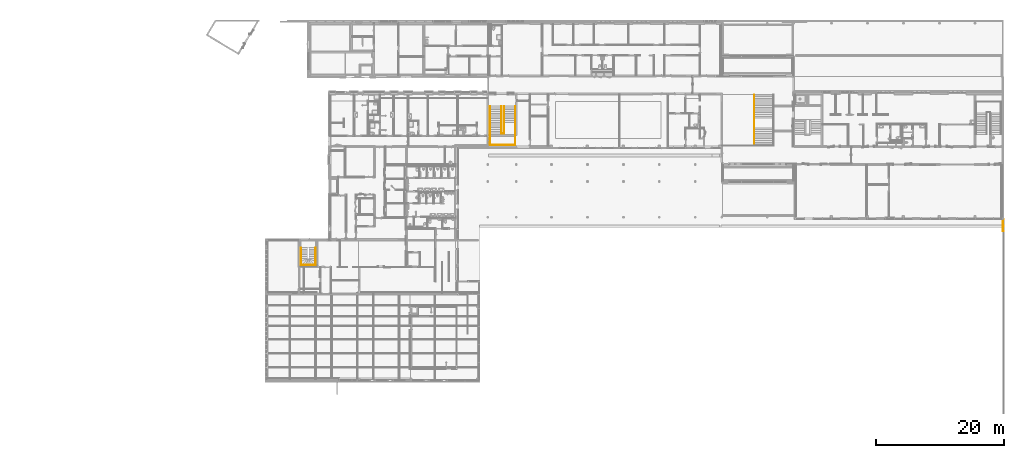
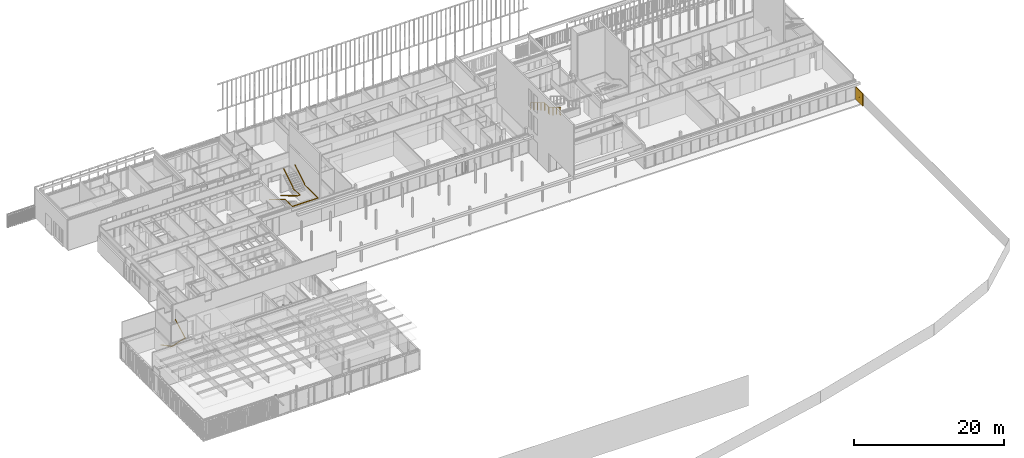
# One storey, part 234 of 240: 4 railings, 1 door, 3 elements without a shape of their own.
"""IFC2X3 building model written with IfcOpenShell, lengths in centimetres."""

from ifc_helpers import new_model, entity, si_unit, converted_unit, derived_unit, direction, frame, origin, place, context, subcontext, project, spatial, faceted_brep, source, transform, mapped, material, material_list, type_object, type_shapes, element, aggregate, save


model = new_model("IFC2X3")

# Units and contexts
model_context = context("Model", 3, precision=0.001, world=origin(), true_north=direction((6.12303176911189e-17, 1.0)))
body_context = subcontext(model_context, "Body", "Model", "MODEL_VIEW")
ifc_project = project(units=[si_unit("LENGTHUNIT", "METRE", prefix="CENTI"), si_unit("AREAUNIT", "SQUARE_METRE"), si_unit("VOLUMEUNIT", "CUBIC_METRE"), converted_unit("PLANEANGLEUNIT", "DEGREE", entity("IfcRatioMeasure", 0.0174532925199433), si_unit("PLANEANGLEUNIT", "RADIAN"), dimensions=[0, 0, 0, 0, 0, 0, 0]), si_unit("MASSUNIT", "GRAM", prefix="KILO"), derived_unit("MASSDENSITYUNIT", [(si_unit("MASSUNIT", "GRAM", prefix="KILO"), 1), (si_unit("LENGTHUNIT", "METRE"), -3)]), si_unit("TIMEUNIT", "SECOND"), si_unit("FREQUENCYUNIT", "HERTZ"), si_unit("THERMODYNAMICTEMPERATUREUNIT", "DEGREE_CELSIUS"), derived_unit("THERMALTRANSMITTANCEUNIT", [(si_unit("MASSUNIT", "GRAM", prefix="KILO"), 1), (si_unit("THERMODYNAMICTEMPERATUREUNIT", "KELVIN"), -1), (si_unit("TIMEUNIT", "SECOND"), -3)]), derived_unit("VOLUMETRICFLOWRATEUNIT", [(si_unit("LENGTHUNIT", "METRE"), 3), (si_unit("TIMEUNIT", "SECOND"), -1)]), si_unit("ELECTRICCURRENTUNIT", "AMPERE"), si_unit("ELECTRICVOLTAGEUNIT", "VOLT"), si_unit("POWERUNIT", "WATT"), si_unit("FORCEUNIT", "NEWTON", prefix="KILO"), si_unit("ILLUMINANCEUNIT", "LUX"), si_unit("LUMINOUSFLUXUNIT", "LUMEN"), si_unit("LUMINOUSINTENSITYUNIT", "CANDELA"), derived_unit("USERDEFINED", [(si_unit("MASSUNIT", "GRAM", prefix="KILO"), -1), (si_unit("LENGTHUNIT", "METRE"), -2), (si_unit("TIMEUNIT", "SECOND"), 3), (si_unit("LUMINOUSFLUXUNIT", "LUMEN"), 1)]), derived_unit("LINEARVELOCITYUNIT", [(si_unit("LENGTHUNIT", "METRE"), 1), (si_unit("TIMEUNIT", "SECOND"), -1)]), si_unit("PRESSUREUNIT", "PASCAL"), derived_unit("USERDEFINED", [(si_unit("LENGTHUNIT", "METRE"), -2), (si_unit("MASSUNIT", "GRAM", prefix="KILO"), 1), (si_unit("TIMEUNIT", "SECOND"), -2)])], contexts=[model_context])

# Site, building, storey
site_placement = place(None, frame((-2781.94577612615, 7442.24238424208, 0.0)))
site = spatial("IfcSite", under=ifc_project, at=site_placement, Name="Default", CompositionType="ELEMENT")
building_placement = place(site_placement, origin())
building = spatial("IfcBuilding", under=site, at=building_placement, CompositionType="ELEMENT")
storey_placement = place(building_placement, origin())
storey = spatial("IfcBuildingStorey", under=building, at=storey_placement, Name="N00 - COO", CompositionType="ELEMENT", Elevation=0.0)

# Door
ifc_material_1 = material(Name="Bois - Panneau de porte")
ifc_material_2 = material(Name="Finition Peinture - Blanc satiné")
ifc_material_3 = material(Name="Bois - Cadre de porte")
ifc_material_list_1 = material_list([ifc_material_1, ifc_material_2, ifc_material_3])
ifc_material_list_2 = material_list([ifc_material_1, ifc_material_2, ifc_material_3])
door_style = type_object("IfcDoorStyle", Name="PP PORTAIL (1.83m x 2.04m)", ConstructionType="NOTDEFINED", OperationType="DOUBLE_DOOR_SINGLE_SWING", ParameterTakesPrecedence=False, Sizeable=False, material=ifc_material_list_2)
shared_shape = source(origin(), body_context, "Body", "Brep", [
    faceted_brep([(95.0, 4.0, 196.5), (95.0, 4.0, 0.0), (3.5000000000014, 4.0, 0.0), (3.5000000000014, 4.0, 196.5), (95.0, 0.0, 196.5), (3.5000000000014, 0.0, 196.5), (3.5000000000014, 0.0, 0.0), (95.0, 0.0, 0.0)], [[[0, 1, 2, 3]], [[4, 5, 6, 7]], [[3, 5, 4, 0]], [[2, 6, 5, 3]], [[1, 7, 6, 2]], [[0, 4, 7, 1]]]),
    faceted_brep([(102.035276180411, -0.500000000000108, 86.6003983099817), (103.0, -0.500000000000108, 87.0), (103.0, -0.500000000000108, 108.0), (102.035276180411, -0.500000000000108, 108.399601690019), (101.0, -0.500000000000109, 108.535898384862), (99.9647238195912, -0.500000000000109, 108.399601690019), (99.0, -0.50000000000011, 108.0), (99.0, -0.50000000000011, 87.0), (99.9647238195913, -0.500000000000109, 86.6003983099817), (101.0, -0.500000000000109, 86.464101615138), (102.035276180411, 0.0, 108.399601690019), (103.0, 0.0, 108.0), (103.0, 0.0, 87.0), (102.035276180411, 0.0, 86.6003983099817), (101.0, 0.0, 86.464101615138), (99.9647238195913, 0.0, 86.6003983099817), (99.0, 0.0, 87.0), (99.0, 0.0, 108.0), (99.9647238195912, 0.0, 108.399601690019), (101.0, 0.0, 108.535898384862)], [[[0, 1, 2, 3, 4, 5, 6, 7, 8, 9]], [[10, 11, 12, 13, 14, 15, 16, 17, 18, 19]], [[16, 15, 8, 7]], [[8, 15, 14, 9]], [[14, 13, 0, 9]], [[13, 12, 1, 0]], [[2, 1, 12, 11]], [[11, 10, 3, 2]], [[3, 10, 19, 4]], [[19, 18, 5, 4]], [[18, 17, 6, 5]], [[7, 6, 17, 16]]]),
    faceted_brep([(102.035276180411, 4.0, 86.6003983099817), (103.0, 4.0, 87.0), (103.0, 4.0, 108.0), (102.035276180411, 4.0, 108.399601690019), (101.0, 4.0, 108.535898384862), (99.9647238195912, 4.0, 108.399601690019), (99.0, 4.0, 108.0), (99.0, 4.0, 87.0), (99.9647238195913, 4.0, 86.6003983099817), (101.0, 4.0, 86.464101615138), (102.035276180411, 4.49999999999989, 108.399601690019), (103.0, 4.49999999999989, 108.0), (103.0, 4.49999999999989, 87.0), (102.035276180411, 4.49999999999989, 86.6003983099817), (101.0, 4.49999999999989, 86.464101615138), (99.9647238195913, 4.49999999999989, 86.6003983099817), (99.0, 4.49999999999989, 87.0), (99.0, 4.49999999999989, 108.0), (99.9647238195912, 4.49999999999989, 108.399601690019), (101.0, 4.49999999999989, 108.535898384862)], [[[0, 1, 2, 3, 4, 5, 6, 7, 8, 9]], [[10, 11, 12, 13, 14, 15, 16, 17, 18, 19]], [[11, 10, 3, 2]], [[3, 10, 19, 4]], [[19, 18, 5, 4]], [[18, 17, 6, 5]], [[7, 6, 17, 16]], [[16, 15, 8, 7]], [[8, 15, 14, 9]], [[14, 13, 0, 9]], [[13, 12, 1, 0]], [[2, 1, 12, 11]]]),
    faceted_brep([(100.797470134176, -0.500000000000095, 100.778044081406), (101.202529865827, -0.500000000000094, 100.778044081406), (101.600000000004, -0.500000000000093, 100.699999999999), (101.600000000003, -0.500000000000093, 99.3000000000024), (101.202529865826, -0.500000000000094, 99.2219559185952), (100.797470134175, -0.500000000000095, 99.221955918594), (100.399999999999, -0.500000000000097, 99.2999999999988), (100.399999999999, -0.500000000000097, 100.7), (100.399999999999, -3.26509507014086, 100.7), (100.797470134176, -3.10045754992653, 100.778044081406), (102.402358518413, -4.70534593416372, 100.778044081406), (102.570139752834, -4.30028620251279, 100.778044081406), (101.202529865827, -2.93267631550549, 100.778044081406), (101.600000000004, -2.76803879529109, 100.7), (101.600000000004, -2.76803879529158, 99.3000000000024), (101.202529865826, -2.93267631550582, 99.2219559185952), (102.570139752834, -4.30028620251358, 99.2219559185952), (102.402358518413, -4.7053459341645, 99.221955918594), (100.797470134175, -3.10045754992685, 99.221955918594), (100.399999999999, -3.26509507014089, 99.2999999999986), (102.237720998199, -5.10281606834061, 100.7), (102.734777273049, -3.90281606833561, 100.7), (102.734777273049, -3.90281606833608, 99.3000000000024), (102.237720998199, -5.10281606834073, 99.2999999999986), (111.001864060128, -5.10281606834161, 99.2999999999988), (111.001864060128, -4.70534593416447, 99.221955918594), (111.001864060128, -4.30028620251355, 99.2219559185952), (111.001864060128, -3.9028160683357, 99.3000000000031), (111.001864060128, -3.90281606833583, 100.7), (111.001864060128, -4.30028620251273, 100.778044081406), (111.001864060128, -4.70534593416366, 100.778044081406), (111.001864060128, -5.10281606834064, 100.699999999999), (106.230769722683, -5.10281606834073, 100.7), (106.78600190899, -4.50281606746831, 100.78786867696), (106.868320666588, -3.9028160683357, 100.7), (106.868320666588, -3.9028160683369, 99.3000000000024), (106.786001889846, -4.50281607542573, 99.2121313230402), (106.23077002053, -5.10281606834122, 99.2999999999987)], [[[0, 1, 2, 3, 4, 5, 6, 7]], [[8, 9, 0, 7]], [[9, 10, 11, 12, 1, 0]], [[12, 13, 2, 1]], [[3, 2, 13, 14]], [[14, 15, 4, 3]], [[15, 16, 17, 18, 5, 4]], [[18, 19, 6, 5]], [[7, 6, 19, 8]], [[20, 10, 9, 8]], [[11, 21, 13, 12]], [[14, 13, 21, 22]], [[22, 16, 15, 14]], [[17, 23, 19, 18]], [[8, 19, 23, 20]], [[24, 25, 26, 27, 28, 29, 30, 31]], [[32, 30, 33]], [[31, 30, 32]], [[10, 20, 32]], [[33, 34, 11]], [[21, 11, 34]], [[34, 29, 28]], [[30, 29, 33]], [[29, 34, 33]], [[10, 32, 33]], [[10, 33, 11]], [[22, 21, 34, 28, 27, 35]], [[35, 26, 36]], [[37, 36, 25]], [[22, 35, 16]], [[35, 27, 26]], [[24, 37, 25]], [[23, 17, 37]], [[37, 17, 36]], [[17, 16, 36]], [[16, 35, 36]], [[25, 36, 26]], [[20, 23, 37, 24, 31, 32]]]),
    faceted_brep([(100.797470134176, 4.4999999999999, 100.778044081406), (100.399999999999, 4.4999999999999, 100.7), (100.399999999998, 4.4999999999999, 99.2999999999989), (100.797470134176, 4.4999999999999, 99.221955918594), (101.202529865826, 4.4999999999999, 99.2219559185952), (101.600000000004, 4.49999999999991, 99.3000000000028), (101.600000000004, 4.49999999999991, 100.7), (101.202529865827, 4.4999999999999, 100.778044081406), (101.600000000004, 6.7485204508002, 99.3000000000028), (101.600000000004, 6.74852045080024, 100.7), (101.202529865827, 6.91315797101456, 100.778044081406), (102.583890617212, 8.29451872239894, 100.778044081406), (102.416109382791, 8.69957845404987, 100.778044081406), (100.797470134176, 7.08093920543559, 100.778044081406), (100.399999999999, 7.24557672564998, 100.7), (100.399999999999, 7.2455767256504, 99.2999999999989), (100.797470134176, 7.08093920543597, 99.221955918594), (102.41610938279, 8.69957845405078, 99.221955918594), (102.583890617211, 8.29451872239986, 99.2219559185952), (101.202529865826, 6.91315797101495, 99.2219559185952), (102.748528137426, 7.89704858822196, 99.3000000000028), (102.748528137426, 7.89704858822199, 100.7), (102.251471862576, 9.09704858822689, 100.7), (102.251471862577, 9.0970485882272, 99.2999999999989), (111.004578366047, 7.89704858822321, 99.3000000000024), (111.004578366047, 8.29451872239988, 99.2219559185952), (111.004578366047, 8.6995784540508, 99.221955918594), (111.004578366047, 9.09704858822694, 99.2999999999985), (111.004578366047, 9.09704858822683, 100.7), (111.004578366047, 8.69957845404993, 100.778044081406), (111.004578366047, 8.294518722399, 100.778044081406), (111.004578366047, 7.89704858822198, 100.7), (106.876552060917, 7.89704858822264, 99.3000000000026), (106.876553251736, 7.89704858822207, 100.7), (106.794234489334, 8.49704858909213, 100.78786867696), (106.244520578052, 9.09704858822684, 100.7), (106.244520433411, 9.09704858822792, 99.2999999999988), (106.794234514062, 8.49704858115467, 99.2121313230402)], [[[0, 1, 2, 3, 4, 5, 6, 7]], [[6, 5, 8, 9]], [[9, 10, 7, 6]], [[10, 11, 12, 13, 0, 7]], [[13, 14, 1, 0]], [[2, 1, 14, 15]], [[15, 16, 3, 2]], [[16, 17, 18, 19, 4, 3]], [[19, 8, 5, 4]], [[9, 8, 20, 21]], [[21, 11, 10, 9]], [[12, 22, 14, 13]], [[15, 14, 22, 23]], [[23, 17, 16, 15]], [[18, 20, 8, 19]], [[24, 25, 26, 27, 28, 29, 30, 31]], [[21, 20, 32, 24, 31, 33]], [[33, 30, 34]], [[35, 34, 29]], [[21, 33, 11]], [[33, 31, 30]], [[28, 35, 29]], [[22, 12, 35]], [[35, 12, 34]], [[12, 11, 34]], [[11, 33, 34]], [[29, 34, 30]], [[22, 35, 28, 27, 36, 23]], [[36, 26, 37]], [[27, 26, 36]], [[17, 23, 36]], [[37, 32, 18]], [[20, 18, 32]], [[32, 25, 24]], [[26, 25, 37]], [[25, 32, 37]], [[17, 36, 37]], [[17, 37, 18]]]),
    faceted_brep([(95.0, 4.0, 196.5), (186.500000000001, 4.0, 196.5), (186.500000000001, 4.0, 0.0), (95.0, 4.0, 0.0), (95.0, 0.0, 196.5), (95.0, 0.0, 0.0), (186.500000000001, 0.0, 0.0), (186.500000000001, 0.0, 196.5)], [[[0, 1, 2, 3]], [[4, 5, 6, 7]], [[1, 0, 4, 7]], [[2, 1, 7, 6]], [[3, 2, 6, 5]], [[0, 3, 5, 4]]]),
    faceted_brep([(0.0, 0.0, 0.0), (0.0, 10.0, 0.0), (5.0, 10.0, 0.0), (5.0, 4.0, 0.0), (3.50000000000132, 4.0, 0.0), (3.50000000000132, 0.0, 0.0), (0.0, 0.0, 200.0), (0.0, 10.0, 200.0), (190.0, 10.0, 200.0), (190.0, 10.0, 0.0), (185.0, 10.0, 0.0), (185.0, 10.0, 195.0), (5.0, 10.0, 195.0), (5.0, 4.0, 195.0), (185.0, 4.0, 195.0), (185.0, 4.0, 0.0), (186.499999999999, 4.0, 0.0), (186.499999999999, 4.0, 196.5), (3.50000000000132, 4.0, 196.5), (3.50000000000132, 0.0, 196.5), (186.499999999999, 0.0, 196.5), (186.499999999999, 0.0, 0.0), (190.0, 0.0, 0.0), (190.0, 0.0, 200.0)], [[[0, 1, 2, 3, 4, 5]], [[1, 0, 6, 7]], [[2, 1, 7, 8, 9, 10, 11, 12]], [[3, 2, 12, 13]], [[4, 3, 13, 14, 15, 16, 17, 18]], [[5, 4, 18, 19]], [[0, 5, 19, 20, 21, 22, 23, 6]], [[8, 23, 22, 9]], [[22, 21, 16, 15, 10, 9]], [[14, 11, 10, 15]], [[20, 17, 16, 21]], [[7, 6, 23, 8]], [[13, 12, 11, 14]], [[19, 18, 17, 20]]]),
    faceted_brep([(1.5, 10.0, 0.0), (-1.5, 10.0, 0.0), (-1.5, 10.5000000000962, 0.0), (1.5, 10.5000000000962, 0.0), (1.49999999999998, 10.0, 198.500000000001), (188.5, 10.0, 198.500000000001), (188.5, 10.0, 0.0), (191.5, 10.0, 0.0), (191.5, 10.0, 201.500000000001), (-1.49999999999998, 10.0, 201.500000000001), (-1.49999999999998, 10.5000000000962, 201.500000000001), (191.5, 10.5000000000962, 201.500000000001), (191.5, 10.5000000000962, 0.0), (188.5, 10.5000000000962, 0.0), (188.5, 10.5000000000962, 198.500000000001), (1.49999999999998, 10.5000000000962, 198.500000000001)], [[[0, 1, 2, 3]], [[1, 0, 4, 5, 6, 7, 8, 9]], [[2, 1, 9, 10]], [[3, 2, 10, 11, 12, 13, 14, 15]], [[0, 3, 15, 4]], [[5, 14, 13, 6]], [[6, 13, 12, 7]], [[11, 8, 7, 12]], [[4, 15, 14, 5]], [[10, 9, 8, 11]]]),
    faceted_brep([(-1.5, -0.500000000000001, 0.0), (1.5, -0.500000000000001, 0.0), (1.49999999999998, -0.500000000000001, 198.500000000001), (188.5, -0.500000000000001, 198.500000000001), (188.5, -0.500000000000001, 0.0), (191.5, -0.500000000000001, 0.0), (191.5, -0.500000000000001, 201.500000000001), (-1.49999999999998, -0.500000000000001, 201.500000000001), (-1.5, 0.0, 0.0), (-1.49999999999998, 0.0, 201.500000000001), (1.5, 0.0, 0.0), (191.5, 0.0, 201.500000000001), (191.5, 0.0, 0.0), (188.5, 0.0, 0.0), (188.5, 0.0, 198.500000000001), (1.49999999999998, 0.0, 198.500000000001)], [[[0, 1, 2, 3, 4, 5, 6, 7]], [[8, 0, 7, 9]], [[10, 8, 9, 11, 12, 13, 14, 15]], [[1, 10, 15, 2]], [[3, 14, 13, 4]], [[11, 6, 5, 12]], [[2, 15, 14, 3]], [[9, 7, 6, 11]], [[4, 13, 12, 5]], [[1, 0, 8, 10]]]),
])
type_shapes(door_style, [shared_shape])
door_placement = place(building_placement, frame((-399.999882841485, -3050.21349958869, 0.0), z_axis=(0.0, 0.0, 1.0), x_axis=(0.0, -1.0, 0.0)))
element("IfcDoor", 1, at=door_placement, inside=storey, type_object=door_style, material=ifc_material_list_1, Name="Int. Double:PP PORTAIL (1.83m x 2.04m)", ObjectType="Int. Double:PP PORTAIL (1.83m x 2.04m)", OverallHeight=201.500000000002, OverallWidth=193.0, context=body_context, shape_type="MappedRepresentation", body=[
    mapped(shared_shape, transform((0.0, 0.0, 0.0), scale=1.0)),
])

# Stair, railings
stair_1_placement = place(storey_placement, origin())
stair_1 = element("IfcStair", 2, at=stair_1_placement, inside=storey, Name="Escalier coulé sur place:Escalier", ObjectType="Escalier coulé sur place:Monobloc", ShapeType="NOTDEFINED")
railing_1_placement = place(stair_1_placement, frame((-8389.19987766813, -1900.07903364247, 97.9824084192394)))
railing_1 = element("IfcRailing", 3, at=railing_1_placement, Name="Garde-corps:Garde-corps 1", ObjectType="Garde-corps:Garde-corps 1", PredefinedType="NOTDEFINED", context=body_context, shape_type="Brep", body=[
    faceted_brep([(5.08000000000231, 610.0, 8.89759158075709), (5.08000000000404, 610.0, 0.0), (0.0, 610.0, 0.0), (0.0, 610.0, 8.89759158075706), (5.07999999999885, 190.0, 262.097591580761), (5.08000000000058, 187.880772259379, 254.477591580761), (0.0, 187.880772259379, 254.477591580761), (0.0, 190.0, 262.09759158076), (5.07999999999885, 5.08000000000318, 262.097591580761), (5.08000000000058, 5.08000000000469, 254.477591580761), (0.0, 0.0, 254.477591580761), (0.0, 0.0, 262.097591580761), (392.620000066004, 5.08000000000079, 262.097591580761), (392.620000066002, 5.08000000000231, 254.477591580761), (397.700000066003, 0.0, 254.477591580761), (397.700000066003, 0.0, 262.097591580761), (392.620000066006, 610.079033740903, 430.897591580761), (397.700000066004, 610.079033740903, 430.897591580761), (397.700000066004, 610.079033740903, 422.0), (392.620000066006, 610.079033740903, 422.0), (392.620000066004, 361.889033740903, 272.376885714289), (392.620000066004, 354.269033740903, 276.680705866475), (397.700000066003, 361.889033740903, 272.376885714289), (397.700000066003, 354.269033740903, 276.680705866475), (392.620000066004, 354.269033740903, 262.097591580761), (392.620000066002, 361.889033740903, 254.477591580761), (397.700000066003, 361.889033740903, 254.477591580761), (397.700000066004, 354.269033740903, 262.097591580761)], [[[0, 1, 2, 3]], [[1, 0, 4, 5]], [[2, 1, 5, 6]], [[3, 2, 6, 7]], [[0, 3, 7, 4]], [[5, 4, 8, 9]], [[6, 5, 9, 10]], [[7, 6, 10, 11]], [[4, 7, 11, 8]], [[9, 8, 12, 13]], [[10, 9, 13, 14]], [[11, 10, 14, 15]], [[8, 11, 15, 12]], [[16, 17, 18, 19]], [[20, 21, 16, 19]], [[22, 20, 19, 18]], [[23, 22, 18, 17]], [[21, 23, 17, 16]], [[13, 12, 24, 25]], [[14, 13, 25, 26]], [[15, 14, 26, 27]], [[12, 15, 27, 24]], [[25, 24, 21, 20]], [[26, 25, 20, 22]], [[27, 26, 22, 23]], [[24, 27, 23, 21]]]),
])
railing_2_placement = place(stair_1_placement, frame((-8214.27987766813, -1720.1590336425, 97.9824084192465)))
railing_2 = element("IfcRailing", 4, at=railing_2_placement, Name="Garde-corps:Garde-corps 1", ObjectType="Garde-corps:Garde-corps 1", PredefinedType="NOTDEFINED", context=body_context, shape_type="Brep", body=[
    faceted_brep([(0.0, 430.079999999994, 8.89759158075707), (5.08000000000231, 430.079999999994, 8.8975915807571), (5.08000000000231, 430.079999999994, 0.0), (0.0, 430.079999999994, 0.0), (0.0, 10.0799999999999, 262.097591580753), (5.07999999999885, 10.0799999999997, 262.097591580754), (5.07999999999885, 7.96077225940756, 254.477591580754), (0.0, 7.96077225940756, 254.477591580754), (42.7800000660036, 5.08000000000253, 262.097591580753), (47.8600000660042, 0.0, 262.097591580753), (47.8600000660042, 174.349033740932, 262.097591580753), (42.7800000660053, 174.349033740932, 262.097591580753), (42.7800000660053, 5.08000000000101, 254.477591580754), (42.7800000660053, 181.969033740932, 254.477591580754), (47.8600000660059, 0.0, 254.477591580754), (47.8600000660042, 181.969033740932, 254.477591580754), (47.8600000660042, 174.349033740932, 276.680705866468), (42.7800000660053, 174.349033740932, 276.680705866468), (42.7800000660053, 181.969033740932, 272.376885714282), (47.8600000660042, 181.969033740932, 272.376885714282), (47.8600000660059, 430.159033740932, 430.897591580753), (47.8600000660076, 430.159033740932, 422.0), (42.780000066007, 430.159033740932, 422.0), (42.7800000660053, 430.159033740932, 430.897591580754), (5.08000000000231, 5.08000000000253, 262.097591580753), (0.0, 0.0, 262.097591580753), (5.08000000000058, 5.08000000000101, 254.477591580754), (0.0, 0.0, 254.477591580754)], [[[0, 1, 2, 3]], [[1, 0, 4, 5]], [[2, 1, 5, 6]], [[3, 2, 6, 7]], [[0, 3, 7, 4]], [[8, 9, 10, 11]], [[12, 8, 11, 13]], [[14, 12, 13, 15]], [[9, 14, 15, 10]], [[11, 10, 16, 17]], [[13, 11, 17, 18]], [[15, 13, 18, 19]], [[10, 15, 19, 16]], [[20, 21, 22, 23]], [[17, 16, 20, 23]], [[18, 17, 23, 22]], [[19, 18, 22, 21]], [[16, 19, 21, 20]], [[24, 25, 9, 8]], [[26, 24, 8, 12]], [[27, 26, 12, 14]], [[25, 27, 14, 9]], [[5, 4, 25, 24]], [[6, 5, 24, 26]], [[7, 6, 26, 27]], [[4, 7, 27, 25]]]),
])
aggregate(stair_1, [railing_1, railing_2])

# Stair, railing
stair_2_placement = place(storey_placement, origin())
stair_2 = element("IfcStair", 5, at=stair_2_placement, inside=storey, Name="Escalier coulé sur place:Escalier", ObjectType="Escalier coulé sur place:Monobloc", ShapeType="NOTDEFINED")
railing_3_placement = place(stair_2_placement, frame((-11332.182807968, -3765.4196611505, 100.258994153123)))
railing_3 = element("IfcRailing", 6, at=railing_3_placement, Name="Garde-corps:Garde-corps 1", ObjectType="Garde-corps:Garde-corps 1", PredefinedType="NOTDEFINED", context=body_context, shape_type="Brep", body=[
    faceted_brep([(5.08000000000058, 273.0, 8.62825378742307), (5.08000000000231, 273.0, 0.0), (0.0, 273.0, 0.0), (0.0, 273.0, 8.6282537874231), (5.08000000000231, 17.4092459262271, 144.390322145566), (5.08000000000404, 15.5110695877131, 136.770322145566), (0.0, 15.5110695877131, 136.770322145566), (0.0, 17.4092459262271, 144.390322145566), (5.08000000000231, 5.08000000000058, 144.390322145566), (5.08000000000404, 5.08000000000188, 136.770322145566), (0.0, 0.0, 136.770322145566), (0.0, 0.0, 144.390322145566), (25.6149543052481, 5.08000000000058, 144.390322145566), (26.8829314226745, 5.08000000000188, 136.770322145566), (26.8829314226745, 0.0, 136.770322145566), (25.6149543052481, 0.0, 144.390322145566), (205.889143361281, 5.08000000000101, 206.094554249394), (207.157120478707, 5.08000000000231, 198.474554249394), (207.157120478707, 0.0, 198.474554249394), (205.889143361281, 0.0, 206.094554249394), (224.920000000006, 5.08000000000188, 206.094554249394), (224.920000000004, 5.08000000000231, 198.474554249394), (230.0, 0.0, 198.474554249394), (230.0, 0.0, 206.094554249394), (224.920000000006, 16.4570620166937, 206.094554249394), (224.920000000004, 18.3531853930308, 198.474554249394), (230.0, 18.3531853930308, 198.474554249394), (230.0, 16.4570620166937, 206.094554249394), (224.920000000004, 273.0, 342.195547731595), (230.0, 273.0, 342.195547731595), (230.0, 273.0, 333.569617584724), (224.920000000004, 273.0, 333.569617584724)], [[[0, 1, 2, 3]], [[1, 0, 4, 5]], [[2, 1, 5, 6]], [[3, 2, 6, 7]], [[0, 3, 7, 4]], [[5, 4, 8, 9]], [[6, 5, 9, 10]], [[7, 6, 10, 11]], [[4, 7, 11, 8]], [[9, 8, 12, 13]], [[10, 9, 13, 14]], [[11, 10, 14, 15]], [[8, 11, 15, 12]], [[13, 12, 16, 17]], [[14, 13, 17, 18]], [[15, 14, 18, 19]], [[12, 15, 19, 16]], [[17, 16, 20, 21]], [[18, 17, 21, 22]], [[19, 18, 22, 23]], [[16, 19, 23, 20]], [[21, 20, 24, 25]], [[22, 21, 25, 26]], [[23, 22, 26, 27]], [[20, 23, 27, 24]], [[28, 29, 30, 31]], [[25, 24, 28, 31]], [[26, 25, 31, 30]], [[27, 26, 30, 29]], [[24, 27, 29, 28]]]),
])
aggregate(stair_2, [railing_3])

stair_3_placement = place(storey_placement, origin())
stair_3 = element("IfcStair", 7, at=stair_3_placement, inside=storey, Name="Escalier coulé sur place:Escalier", ObjectType="Escalier coulé sur place:Monobloc", ShapeType="NOTDEFINED")
ifc_material_4 = material(Name="Métal - Acier inoxydable, poli")
railing_4_placement = place(stair_3_placement, frame((-4274.95987968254, -1910.47903364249, 16.8799999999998)))
railing_4 = element("IfcRailing", 8, at=railing_4_placement, material=ifc_material_4, Name="Garde-corps:Garde corps 1A0cmHT", ObjectType="Garde-corps:Garde corps 1A0cmHT", PredefinedType="NOTDEFINED", context=body_context, shape_type="Brep", body=[
    faceted_brep([(5.0, 18.7999999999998, 388.24), (5.0, 20.0, 388.24), (5.0, 20.0, 502.720168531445), (5.0, 18.7999999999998, 503.443597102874), (0.0, 18.7999999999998, 388.24), (0.0, 18.7999999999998, 503.443597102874), (0.0, 20.0, 502.720168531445), (0.0, 20.0, 388.24)], [[[0, 1, 2, 3]], [[4, 5, 6, 7]], [[1, 0, 4, 7]], [[2, 1, 7, 6]], [[3, 2, 6, 5]], [[0, 3, 5, 4]]]),
    faceted_brep([(5.0, 108.8, 337.6), (5.0, 110.0, 337.6), (5.0, 110.0, 448.463025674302), (5.0, 108.8, 449.186454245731), (0.0, 108.8, 337.6), (0.0, 108.8, 449.186454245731), (0.0, 110.0, 448.463025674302), (0.0, 110.0, 337.6)], [[[0, 1, 2, 3]], [[4, 5, 6, 7]], [[1, 0, 4, 7]], [[2, 1, 7, 6]], [[3, 2, 6, 5]], [[0, 3, 5, 4]]]),
    faceted_brep([(5.0, 198.8, 270.08), (5.0, 200.0, 270.08), (5.0, 200.0, 394.205882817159), (5.0, 198.8, 394.929311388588), (0.0, 198.8, 270.08), (0.0, 198.8, 394.929311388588), (0.0, 200.0, 394.205882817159), (0.0, 200.0, 270.08)], [[[0, 1, 2, 3]], [[4, 5, 6, 7]], [[1, 0, 4, 7]], [[2, 1, 7, 6]], [[3, 2, 6, 5]], [[0, 3, 5, 4]]]),
    faceted_brep([(5.0, 288.8, 219.44), (5.0, 290.0, 219.44), (5.0, 290.0, 339.948739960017), (5.0, 288.8, 340.672168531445), (0.0, 288.8, 219.44), (0.0, 288.8, 340.672168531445), (0.0, 290.0, 339.948739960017), (0.0, 290.0, 219.44)], [[[0, 1, 2, 3]], [[4, 5, 6, 7]], [[1, 0, 4, 7]], [[2, 1, 7, 6]], [[3, 2, 6, 5]], [[0, 3, 5, 4]]]),
    faceted_brep([(5.0, 324.839516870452, 219.44), (5.0, 326.039516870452, 219.44), (5.0, 326.039516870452, 328.94), (5.0, 324.839516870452, 328.94), (0.0, 324.839516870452, 219.44), (0.0, 324.839516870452, 328.94), (0.0, 326.039516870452, 328.94), (0.0, 326.039516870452, 219.44)], [[[0, 1, 2, 3]], [[4, 5, 6, 7]], [[1, 0, 4, 7]], [[2, 1, 7, 6]], [[3, 2, 6, 5]], [[0, 3, 5, 4]]]),
    faceted_brep([(5.0, 414.839516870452, 219.44), (5.0, 416.039516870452, 219.44), (5.0, 416.039516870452, 328.94), (5.0, 414.839516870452, 328.94), (0.0, 414.839516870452, 219.44), (0.0, 414.839516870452, 328.94), (0.0, 416.039516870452, 328.94), (0.0, 416.039516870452, 219.44)], [[[0, 1, 2, 3]], [[4, 5, 6, 7]], [[1, 0, 4, 7]], [[2, 1, 7, 6]], [[3, 2, 6, 5]], [[0, 3, 5, 4]]]),
    faceted_brep([(5.0, 433.879033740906, 202.56), (5.0, 435.079033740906, 202.56), (5.0, 435.079033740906, 327.288739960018), (5.0, 433.879033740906, 328.012168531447), (0.0, 433.879033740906, 202.56), (0.0, 433.879033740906, 328.012168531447), (0.0, 435.079033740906, 327.288739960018), (0.0, 435.079033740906, 202.56)], [[[0, 1, 2, 3]], [[4, 5, 6, 7]], [[1, 0, 4, 7]], [[2, 1, 7, 6]], [[3, 2, 6, 5]], [[0, 3, 5, 4]]]),
    faceted_brep([(5.0, 523.879033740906, 151.92), (5.0, 525.079033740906, 151.92), (5.0, 525.079033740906, 273.031597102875), (5.0, 523.879033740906, 273.755025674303), (0.0, 523.879033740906, 151.92), (0.0, 523.879033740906, 273.755025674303), (0.0, 525.079033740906, 273.031597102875), (0.0, 525.079033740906, 151.92)], [[[0, 1, 2, 3]], [[4, 5, 6, 7]], [[1, 0, 4, 7]], [[2, 1, 7, 6]], [[3, 2, 6, 5]], [[0, 3, 5, 4]]]),
    faceted_brep([(5.0, 613.879033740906, 101.28), (5.0, 615.079033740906, 101.28), (5.0, 615.079033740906, 218.774454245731), (5.0, 613.879033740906, 219.49788281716), (0.0, 613.879033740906, 101.28), (0.0, 613.879033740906, 219.49788281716), (0.0, 615.079033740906, 218.774454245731), (0.0, 615.079033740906, 101.28)], [[[0, 1, 2, 3]], [[4, 5, 6, 7]], [[1, 0, 4, 7]], [[2, 1, 7, 6]], [[3, 2, 6, 5]], [[0, 3, 5, 4]]]),
    faceted_brep([(5.0, 703.879033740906, 50.64), (5.0, 705.079033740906, 50.64), (5.0, 705.079033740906, 164.517311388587), (5.0, 703.879033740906, 165.240739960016), (0.0, 703.879033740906, 50.64), (0.0, 703.879033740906, 165.240739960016), (0.0, 705.079033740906, 164.517311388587), (0.0, 705.079033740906, 50.64)], [[[0, 1, 2, 3]], [[4, 5, 6, 7]], [[1, 0, 4, 7]], [[2, 1, 7, 6]], [[3, 2, 6, 5]], [[0, 3, 5, 4]]]),
    faceted_brep([(5.0, 793.879033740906, 0.0), (5.0, 795.079033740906, 0.0), (5.0, 795.079033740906, 110.260168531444), (5.0, 793.879033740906, 110.983597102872), (0.0, 793.879033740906, 0.0), (0.0, 793.879033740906, 110.983597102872), (0.0, 795.079033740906, 110.260168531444), (0.0, 795.079033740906, 0.0)], [[[0, 1, 2, 3]], [[4, 5, 6, 7]], [[1, 0, 4, 7]], [[2, 1, 7, 6]], [[3, 2, 6, 5]], [[0, 3, 5, 4]]]),
    faceted_brep([(5.0, 431.879033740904, 202.56), (5.0, 433.079033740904, 202.56), (5.0, 433.079033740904, 219.440000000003), (5.0, 431.879033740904, 219.440000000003), (0.0, 431.879033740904, 202.56), (0.0, 431.879033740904, 219.440000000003), (0.0, 433.079033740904, 219.440000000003), (0.0, 433.079033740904, 202.56)], [[[0, 1, 2, 3]], [[4, 5, 6, 7]], [[1, 0, 4, 7]], [[2, 1, 7, 6]], [[3, 2, 6, 5]], [[0, 3, 5, 4]]]),
    faceted_brep([(5.0, 0.0, 388.24), (5.0, 1.19999999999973, 388.24), (5.0, 1.19999999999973, 404.999428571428), (5.0, 0.0, 404.999428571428), (0.0, 0.0, 388.24), (0.0, 0.0, 404.999428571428), (0.0, 1.19999999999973, 404.999428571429), (0.0, 1.19999999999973, 388.24)], [[[0, 1, 2, 3]], [[4, 5, 6, 7]], [[1, 0, 4, 7]], [[2, 1, 7, 6]], [[3, 2, 6, 5]], [[0, 3, 5, 4]]]),
    faceted_brep([(5.0, 795.679033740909, 0.0), (5.0, 796.879033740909, 0.0), (5.0, 796.879033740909, 0.120571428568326), (5.0, 795.679033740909, 0.120571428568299), (0.0, 795.679033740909, 0.0), (0.0, 795.679033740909, 0.120571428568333), (0.0, 796.879033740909, 0.12057142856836), (0.0, 796.879033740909, 0.0)], [[[0, 1, 2, 3]], [[4, 5, 6, 7]], [[1, 0, 4, 7]], [[2, 1, 7, 6]], [[3, 2, 6, 5]], [[0, 3, 5, 4]]]),
    faceted_brep([(0.0, 796.479033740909, 109.416168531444), (0.0, 796.479033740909, 110.583831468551), (5.0, 796.479033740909, 110.583831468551), (5.0, 796.479033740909, 109.416168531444), (5.0, 432.618090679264, 329.94), (5.0, 432.339976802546, 328.940000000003), (0.0, 432.339976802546, 328.940000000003), (5.0, 308.53905693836, 329.94), (5.0, 308.260943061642, 328.94), (0.0, 308.260943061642, 328.94), (0.0, 0.400000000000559, 514.536168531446), (5.0, 0.400000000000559, 514.536168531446), (5.0, 0.400000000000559, 515.703831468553), (0.0, 0.400000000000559, 515.703831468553), (0.0, 432.618090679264, 329.940000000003), (0.0, 308.53905693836, 329.94)], [[[0, 1, 2, 3]], [[3, 2, 4, 5]], [[0, 3, 5, 6]], [[5, 4, 7, 8]], [[6, 5, 8, 9]], [[10, 11, 12, 13]], [[8, 7, 12, 11]], [[9, 8, 11, 10]], [[1, 0, 6, 14]], [[2, 1, 14, 4]], [[14, 6, 9, 15]], [[4, 14, 15, 7]], [[15, 9, 10, 13]], [[7, 15, 13, 12]]]),
])
aggregate(stair_3, [railing_4])

save(model, "model.ifc")
